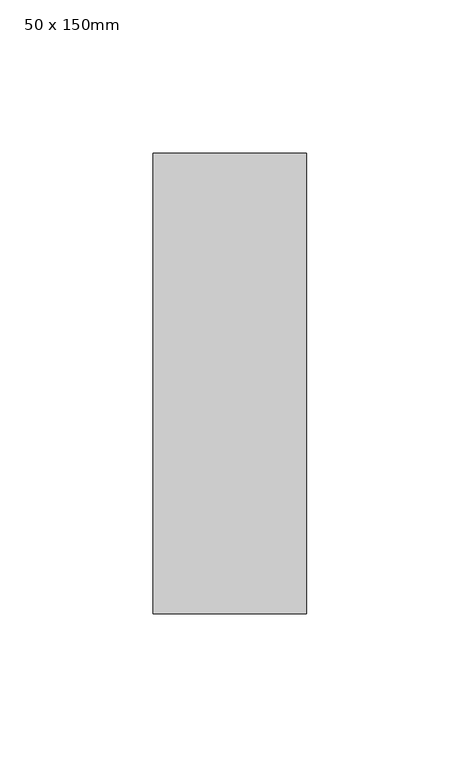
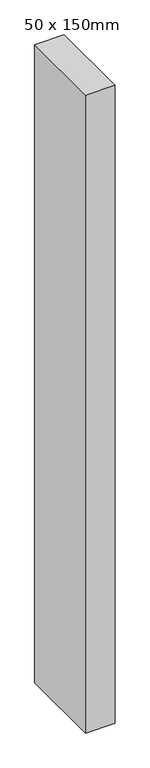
"""IFC4 building model written with IfcOpenShell, lengths in millimetres: member geometry, 矩形豎框 : 50 x 150mm."""

from ifc_helpers import new_model, si_unit, frame, origin, place, context, project, spatial, polyline, outline, extrude, source, transform, mapped, element, save


def member_50_x_150mm_b83a1f72(model_context):
    return source(origin(), model_context, "Body", "SweptSolid", [
        extrude(outline(polyline([(0.0, 75.0), (0.0, -75.0), (-50.0, -75.0), (-50.0, 75.0), (0.0, 75.0)])), frame((0.0, 0.0, -1147.6738463), z_axis=(0.0, 0.0, 1.0), x_axis=(1.0, 0.0, 0.0)), (0.0, 0.0, 1.0), 1147.6738463),
    ])


if __name__ == "__main__":
    model = new_model("IFC4")
    model_context = context("Model", 3, world=origin())
    ifc_project = project(units=[si_unit("LENGTHUNIT", "METRE", prefix="MILLI")], contexts=[model_context])
    site = spatial("IfcSite", under=ifc_project)
    building = spatial("IfcBuilding", under=site)
    placement = place(None, origin())
    member_50_x_150mm_shape = member_50_x_150mm_b83a1f72(model_context)
    element("IfcMember", 1, ObjectType="矩形豎框 : 50 x 150mm", at=placement, inside=building, context=model_context, shape_type="MappedRepresentation", body=[
        mapped(member_50_x_150mm_shape, transform((0.0, 0.0, 0.0), x_axis=(1.0, 0.0, 0.0), y_axis=(0.0, 1.0, 0.0), z_axis=(0.0, 0.0, 1.0))),
    ])
    save(model, "model.ifc")
